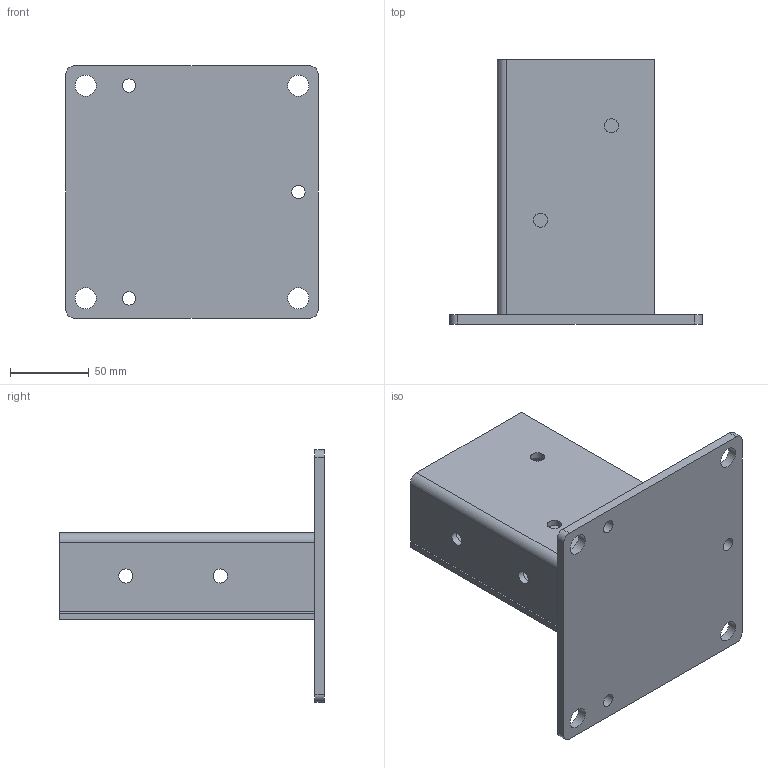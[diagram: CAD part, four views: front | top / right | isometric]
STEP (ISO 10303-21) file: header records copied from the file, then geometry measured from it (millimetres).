
FILE_DESCRIPTION (( 'STEP AP214' ), '1' );
FILE_NAME ('SN04002.step', '2024-12-03T16:31:37', ( '' ), ( '' ), 'SwSTEP 2.0', 'SolidWorks 2023', '' );
FILE_SCHEMA (( 'AUTOMOTIVE_DESIGN' ));
Length unit declared in the file: millimetre
Products named in the file (1): SN04002
Bounding box: 160 x 168 x 160 mm (x, y, z)
Volume: 333969.8 mm3; surface area: 153241.5 mm2
Topology: 3 solids, 3 shells, 45 faces, 117 edges, 78 vertices
Faces by surface type: cylinder 23, plane 22
Full cylindrical faces by diameter (mm): 8.5 x3, 9 x8, 13.5 x4
Entity records: 1423 total; most frequent: DIRECTION 240, CARTESIAN_POINT 226, ORIENTED_EDGE 204, EDGE_CURVE 102, AXIS2_PLACEMENT_3D 92, EDGE_LOOP 90, VERTEX_POINT 78, FACE_OUTER_BOUND 60
